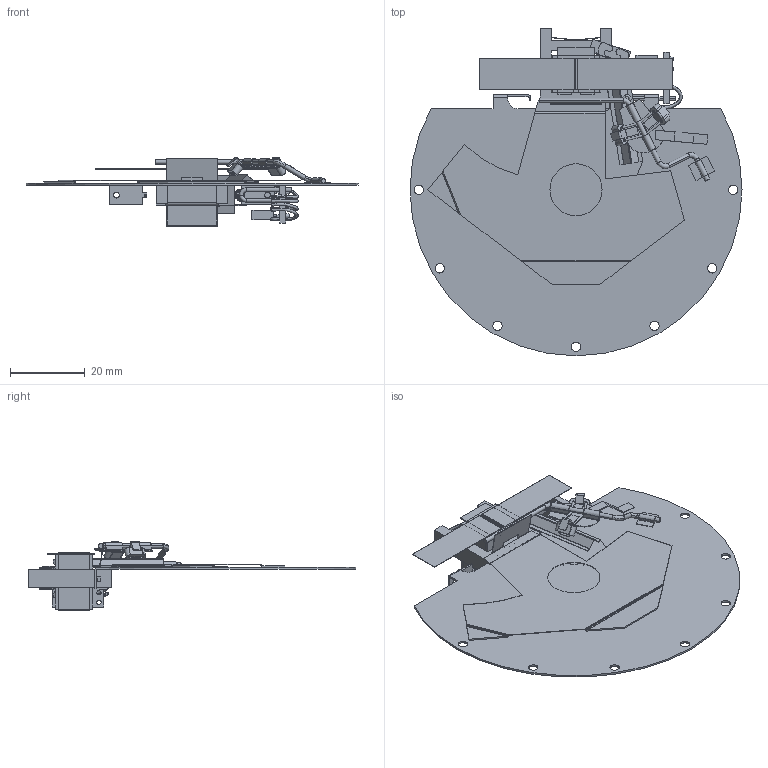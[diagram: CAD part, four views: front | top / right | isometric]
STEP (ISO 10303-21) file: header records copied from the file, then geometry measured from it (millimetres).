
FILE_DESCRIPTION (( 'STEP AP214' ), '1' );
FILE_NAME ('XRS14 STD dumb.STEP', '2013-07-17T19:03:30', ( 'helen' ), ( 'Microsoft' ), 'SwSTEP 2.0', 'SolidWorks 2010', '' );
FILE_SCHEMA (( 'AUTOMOTIVE_DESIGN' ));
Length unit declared in the file: inch
Products named in the file (1): XRS14 STD dumb
Bounding box: 88.9 x 87.73 x 18.43 mm (x, y, z)
Volume: 6823.7 mm3; surface area: 21923.2 mm2
Topology: 18 solids, 18 shells, 713 faces, 1805 edges, 1124 vertices
Faces by surface type: plane 452, cylinder 189, torus 34, bspline 26, cone 12
Entity records: 37040 total; most frequent: CARTESIAN_POINT 10230, ORIENTED_EDGE 3602, DIRECTION 3570, EDGE_CURVE 1801, AXIS2_PLACEMENT_3D 1196, VECTOR 1178, LINE 1178, VERTEX_POINT 1124
